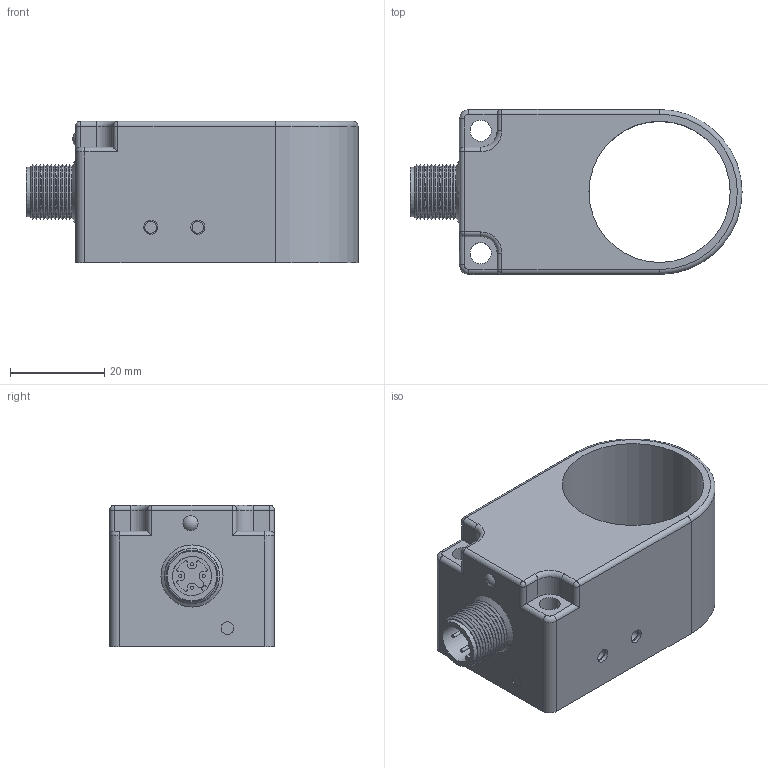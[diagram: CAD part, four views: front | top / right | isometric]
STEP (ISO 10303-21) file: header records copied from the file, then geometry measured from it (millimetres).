
FILE_DESCRIPTION((''),'2;1');
FILE_NAME('C:\TurckZip\BI30R-W30-H1.stp','2007-08-23T08:56:48',('IKOROL'),(''),'Autodesk Inventor 11','Autodesk Inventor 11','');
FILE_SCHEMA(('AUTOMOTIVE_DESIGN { 1 0 10303 214 1 1 1 1 }'));
Length unit declared in the file: millimetre
Products named in the file (1): Part1
Bounding box: 70.5 x 35 x 30 mm (x, y, z)
Volume: 36808.6 mm3; surface area: 12251.2 mm2
Topology: 2 solids, 2 shells, 119 faces, 264 edges, 157 vertices
Faces by surface type: cylinder 50, plane 36, cone 23, sphere 5, torus 4, bspline 1
Full cylindrical faces by diameter (mm): 0.671 x4, 2.5 x2, 2.7 x1, 3 x2, 3.2 x1, 4.5 x2, 8.3 x1, 10.5 x1, 30 x1
Entity records: 3125 total; most frequent: DIRECTION 587, CARTESIAN_POINT 541, ORIENTED_EDGE 442, AXIS2_PLACEMENT_3D 247, EDGE_CURVE 221, EDGE_LOOP 175, VERTEX_POINT 156, CIRCLE 124
